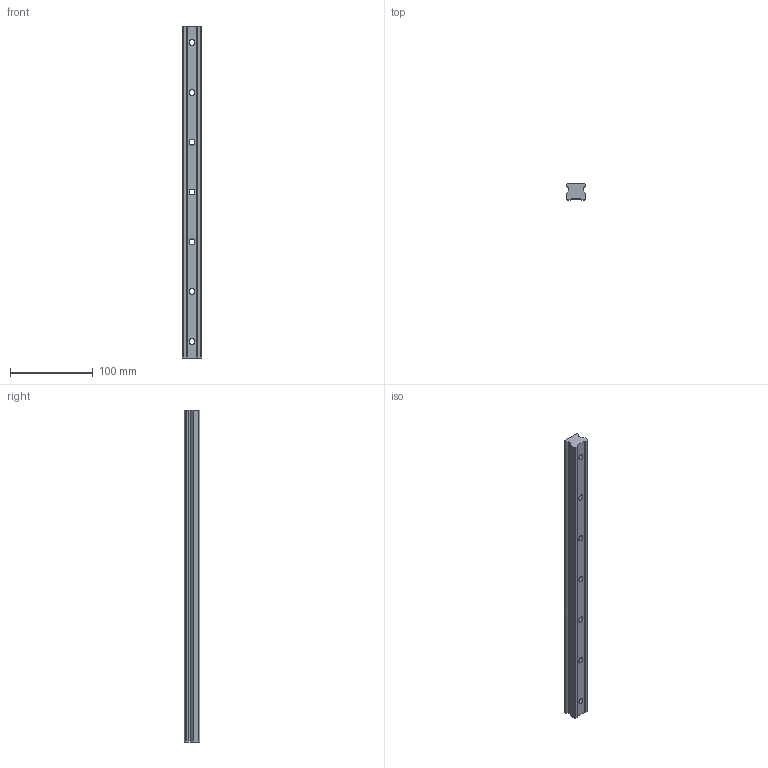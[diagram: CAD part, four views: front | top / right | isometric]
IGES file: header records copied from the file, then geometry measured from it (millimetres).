
Start section: SolidWorks IGES file using analytic representation for surfaces
Global section: file name: C:\Users\IanO\Desktop\L1016_v2\L1016.BL25_v2\L1016.BL25_v2_20160611_IGES\L1016.BL25-0400.igs; native system: SolidWorks 2017; preprocessor: SolidWorks 2017; author: IanO; date: 190612.130444; units: millimetre
Bounding box: 23 x 19.2 x 400 mm (x, y, z)
Surface area: 38642.9 mm2 (no closed solid volume)
Topology: 0 solids, 0 shells, 61 faces, 1176 edges, 1176 vertices
Faces by surface type: revolution 32, bspline 29
